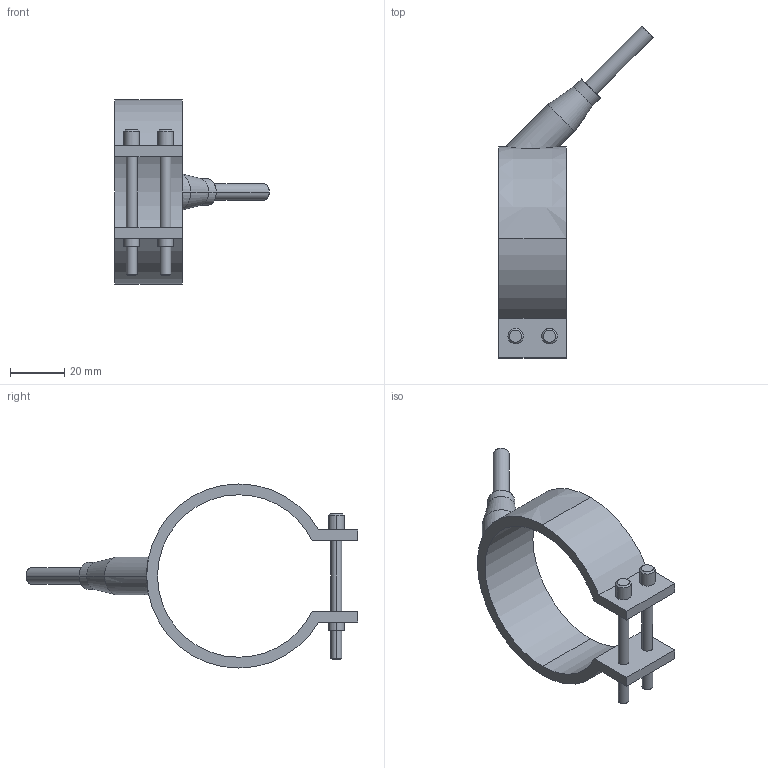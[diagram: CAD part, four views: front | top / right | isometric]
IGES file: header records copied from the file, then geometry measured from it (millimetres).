
Start section: START RECORD GO HERE.
Global section: file name: 29060025.igs; native system: DASSAULT SYSTEMES CATIA V5 R20 - www.3ds.com; preprocessor: CATIA Version 5 Release 20 ; author: Utente; organization: NB04-ASUS; date: 20210327.105554; units: millimetre
Bounding box: 57.05 x 122.55 x 68 mm (x, y, z)
Surface area: 14717.6 mm2 (no closed solid volume)
Topology: 0 solids, 0 shells, 54 faces, 252 edges, 252 vertices
Faces by surface type: revolution 38, plane 16
